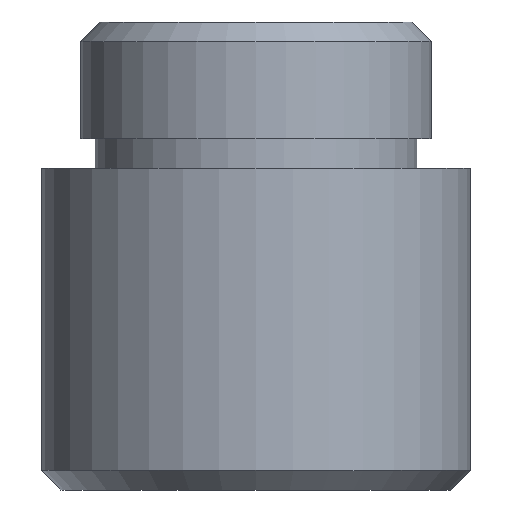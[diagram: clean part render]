
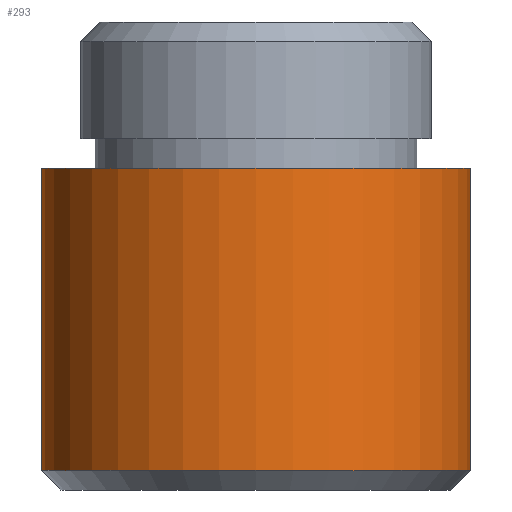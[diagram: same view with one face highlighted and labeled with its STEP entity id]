
A CAD part, front view. The second image highlights one B-rep face of the part: STEP entity #293.
In plain terms, the highlighted cylindrical face has radius 11 mm (diameter 22 mm), a partial arc.
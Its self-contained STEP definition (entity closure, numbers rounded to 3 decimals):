
#20=CARTESIAN_POINT('',(0.,0.,0.));
#21=DIRECTION('',(0.,0.,-1.));
#22=DIRECTION('',(1.,0.,0.));
#23=AXIS2_PLACEMENT_3D('',#20,#21,#22);
#30=DIRECTION('',(0.,0.,-1.));
#31=VECTOR('',#30,15.5);
#32=CARTESIAN_POINT('',(-11.,0.,0.));
#33=LINE('',#32,#31);
#62=CARTESIAN_POINT('',(0.,0.,-15.5));
#63=DIRECTION('',(0.,0.,-1.));
#64=DIRECTION('',(1.,0.,0.));
#65=AXIS2_PLACEMENT_3D('',#62,#63,#64);
#67=DIRECTION('',(0.,0.,-1.));
#68=VECTOR('',#67,15.5);
#69=CARTESIAN_POINT('',(11.,0.,0.));
#70=LINE('',#69,#68);
#157=CARTESIAN_POINT('',(-11.,0.,0.));
#158=CARTESIAN_POINT('',(11.,0.,0.));
#159=VERTEX_POINT('',#157);
#160=VERTEX_POINT('',#158);
#177=CARTESIAN_POINT('',(-11.,0.,-15.5));
#178=CARTESIAN_POINT('',(11.,0.,-15.5));
#179=VERTEX_POINT('',#177);
#180=VERTEX_POINT('',#178);
#282=CARTESIAN_POINT('',(0.,0.,0.));
#283=DIRECTION('',(0.,0.,-1.));
#284=DIRECTION('',(-1.,0.,0.));
#285=AXIS2_PLACEMENT_3D('',#282,#283,#284);
#286=CYLINDRICAL_SURFACE('',#285,11.);
#287=ORIENTED_EDGE('',*,*,#276,.T.);
#288=ORIENTED_EDGE('',*,*,#232,.F.);
#289=ORIENTED_EDGE('',*,*,#212,.F.);
#290=ORIENTED_EDGE('',*,*,#229,.T.);
#291=EDGE_LOOP('',(#287,#288,#289,#290));
#292=FACE_OUTER_BOUND('',#291,.F.);
#293=ADVANCED_FACE('',(#292),#286,.T.);
#24=CIRCLE('',#23,11.);
#66=CIRCLE('',#65,11.);
#212=EDGE_CURVE('',#160,#159,#24,.T.);
#229=EDGE_CURVE('',#160,#180,#70,.T.);
#232=EDGE_CURVE('',#159,#179,#33,.T.);
#276=EDGE_CURVE('',#180,#179,#66,.T.);
